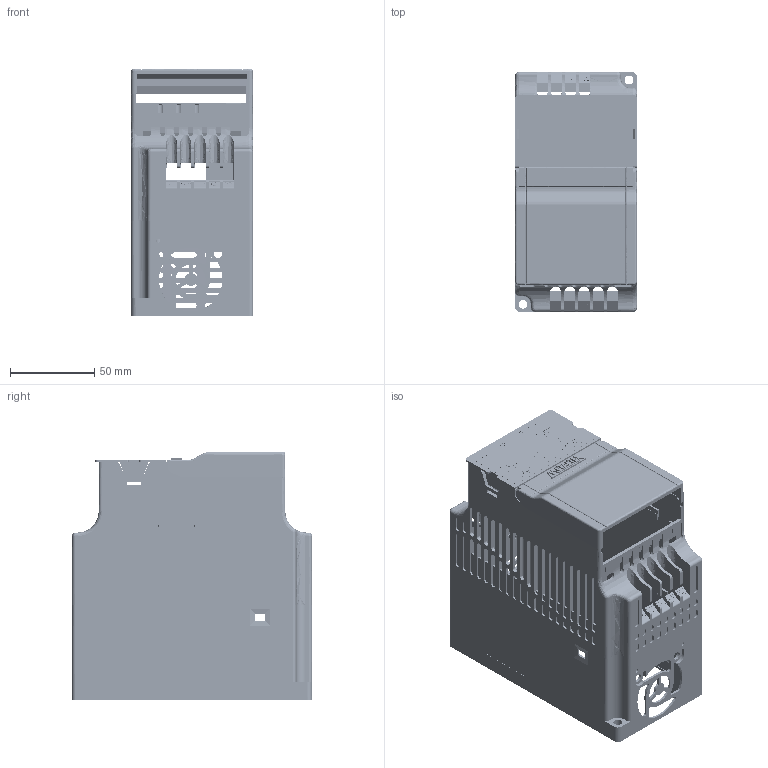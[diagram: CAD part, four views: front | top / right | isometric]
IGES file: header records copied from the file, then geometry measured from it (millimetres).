
Start section: SolidWorks IGES file using analytic representation for surfaces
Global section: file name: D:\X - Arquivos\PROEX\Empresas\P11 - METALTEX\Arquivo - Recebi por e-mail\3\3.2\IF20\IGES\Z2000-2_2kw (S11).IGS; native system: SolidWorks 2012; preprocessor: SolidWorks 2012; author: Usuario; date: 190524.102645; units: millimetre
Bounding box: 72 x 142 x 146.6 mm (x, y, z)
Surface area: 149029.9 mm2 (no closed solid volume)
Topology: 0 solids, 0 shells, 3333 faces, 28801 edges, 28794 vertices
Faces by surface type: bspline 2473, revolution 860
